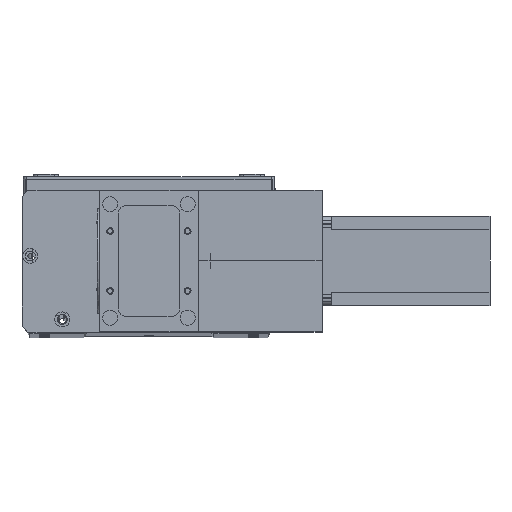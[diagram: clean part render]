
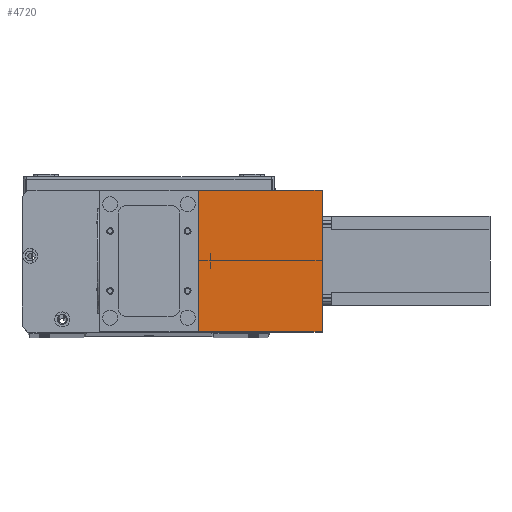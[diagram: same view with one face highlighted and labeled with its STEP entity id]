
A CAD part, top view. The second image highlights one B-rep face of the part: STEP entity #4720.
In plain terms, the highlighted planar face has unit normal (0, 0, 1) as drawn and (1, 0, 0) by its records, which use the part's own axes.
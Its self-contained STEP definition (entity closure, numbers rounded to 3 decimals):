
#482 = CARTESIAN_POINT ( 'NONE',  ( 82., 95., 83. ) ) ;
#2323 = DIRECTION ( 'NONE',  ( 0., 0., -1. ) ) ;
#2889 = EDGE_CURVE ( 'NONE', #4473, #26880, #19923, .T. ) ;
#4080 = CARTESIAN_POINT ( 'NONE',  ( 82., 0., 0. ) ) ;
#4473 = VERTEX_POINT ( 'NONE', #21663 ) ;
#4720 = ADVANCED_FACE ( 'NONE', ( #13099 ), #8145, .F. ) ;
#6153 = VECTOR ( 'NONE', #16055, 1000. ) ;
#6775 = DIRECTION ( 'NONE',  ( 0., 0., 1. ) ) ;
#7112 = VECTOR ( 'NONE', #16021, 1000. ) ;
#7208 = LINE ( 'NONE', #482, #28288 ) ;
#7549 = DIRECTION ( 'NONE',  ( -1., 0., 0. ) ) ;
#8145 = PLANE ( 'NONE',  #13941 ) ;
#9782 = LINE ( 'NONE', #21771, #19725 ) ;
#10625 = DIRECTION ( 'NONE',  ( 0., 1., 0. ) ) ;
#11319 = EDGE_LOOP ( 'NONE', ( #20833, #25133, #13369, #13823 ) ) ;
#11484 = CARTESIAN_POINT ( 'NONE',  ( 82., 0., 83. ) ) ;
#11504 = VERTEX_POINT ( 'NONE', #15805 ) ;
#12477 = EDGE_CURVE ( 'NONE', #4473, #22824, #23419, .T. ) ;
#12793 = EDGE_CURVE ( 'NONE', #22824, #11504, #7208, .T. ) ;
#13099 = FACE_OUTER_BOUND ( 'NONE', #11319, .T. ) ;
#13369 = ORIENTED_EDGE ( 'NONE', *, *, #12477, .F. ) ;
#13823 = ORIENTED_EDGE ( 'NONE', *, *, #2889, .T. ) ;
#13941 = AXIS2_PLACEMENT_3D ( 'NONE', #11484, #7549, #6775 ) ;
#15805 = CARTESIAN_POINT ( 'NONE',  ( 82., 95., 0. ) ) ;
#16021 = DIRECTION ( 'NONE',  ( 0., 0., -1. ) ) ;
#16055 = DIRECTION ( 'NONE',  ( 0., 1., 0. ) ) ;
#16897 = CARTESIAN_POINT ( 'NONE',  ( 82., 0., 83. ) ) ;
#19725 = VECTOR ( 'NONE', #10625, 1000. ) ;
#19923 = LINE ( 'NONE', #27433, #7112 ) ;
#20833 = ORIENTED_EDGE ( 'NONE', *, *, #26804, .T. ) ;
#21663 = CARTESIAN_POINT ( 'NONE',  ( 82., 0., 83. ) ) ;
#21771 = CARTESIAN_POINT ( 'NONE',  ( 82., 0., 0. ) ) ;
#21992 = CARTESIAN_POINT ( 'NONE',  ( 82., 95., 83. ) ) ;
#22824 = VERTEX_POINT ( 'NONE', #21992 ) ;
#23419 = LINE ( 'NONE', #16897, #6153 ) ;
#25133 = ORIENTED_EDGE ( 'NONE', *, *, #12793, .F. ) ;
#26804 = EDGE_CURVE ( 'NONE', #26880, #11504, #9782, .T. ) ;
#26880 = VERTEX_POINT ( 'NONE', #4080 ) ;
#27433 = CARTESIAN_POINT ( 'NONE',  ( 82., 0., 83. ) ) ;
#28288 = VECTOR ( 'NONE', #2323, 1000. ) ;
